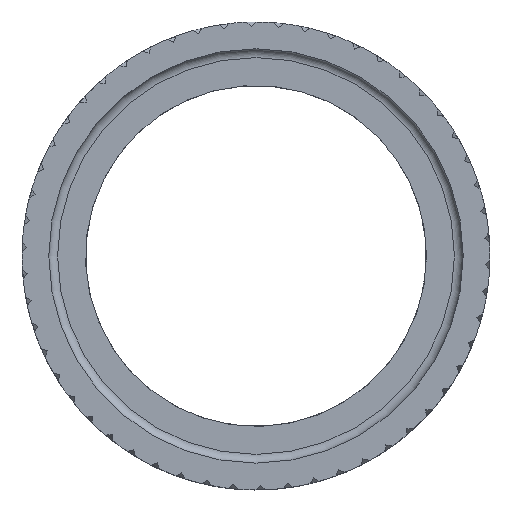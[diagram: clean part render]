
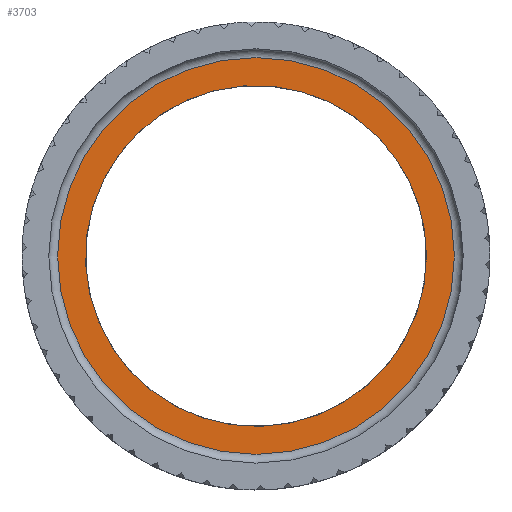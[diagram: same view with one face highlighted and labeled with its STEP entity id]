
A CAD part, top view. The second image highlights one B-rep face of the part: STEP entity #3703.
In plain terms, the highlighted planar face has unit normal (0, 0, 1).
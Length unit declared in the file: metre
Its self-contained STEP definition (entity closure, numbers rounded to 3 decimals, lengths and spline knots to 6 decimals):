
#395=PLANE('',#3939);
#477=CIRCLE('',#3940,0.03375);
#478=CIRCLE('',#3941,0.029);
#632=ORIENTED_EDGE('',*,*,#1902,.T.);
#633=ORIENTED_EDGE('',*,*,#1903,.T.);
#1902=EDGE_CURVE('',#2537,#2537,#477,.F.);
#1903=EDGE_CURVE('',#2538,#2538,#478,.T.);
#2537=VERTEX_POINT('',#4807);
#2538=VERTEX_POINT('',#4809);
#3240=EDGE_LOOP('',(#632));
#3241=EDGE_LOOP('',(#633));
#3471=FACE_BOUND('',#3240,.T.);
#3472=FACE_BOUND('',#3241,.T.);
#3703=ADVANCED_FACE('',(#3471,#3472),#395,.F.);
#3939=AXIS2_PLACEMENT_3D('',#4805,#4151,#4152);
#3940=AXIS2_PLACEMENT_3D('',#4806,#4153,#4154);
#3941=AXIS2_PLACEMENT_3D('',#4808,#4155,#4156);
#4151=DIRECTION('',(0.,0.,-1.));
#4152=DIRECTION('',(0.819,0.574,0.));
#4153=DIRECTION('',(0.,0.,-1.));
#4154=DIRECTION('',(1.,0.,0.));
#4155=DIRECTION('',(0.,0.,-1.));
#4156=DIRECTION('',(1.,0.,0.));
#4805=CARTESIAN_POINT('',(0.,0.,0.0738));
#4806=CARTESIAN_POINT('',(0.,0.,0.0738));
#4807=CARTESIAN_POINT('',(0.03375,0.,0.0738));
#4808=CARTESIAN_POINT('',(0.,0.,0.0738));
#4809=CARTESIAN_POINT('',(0.029,0.,0.0738));
